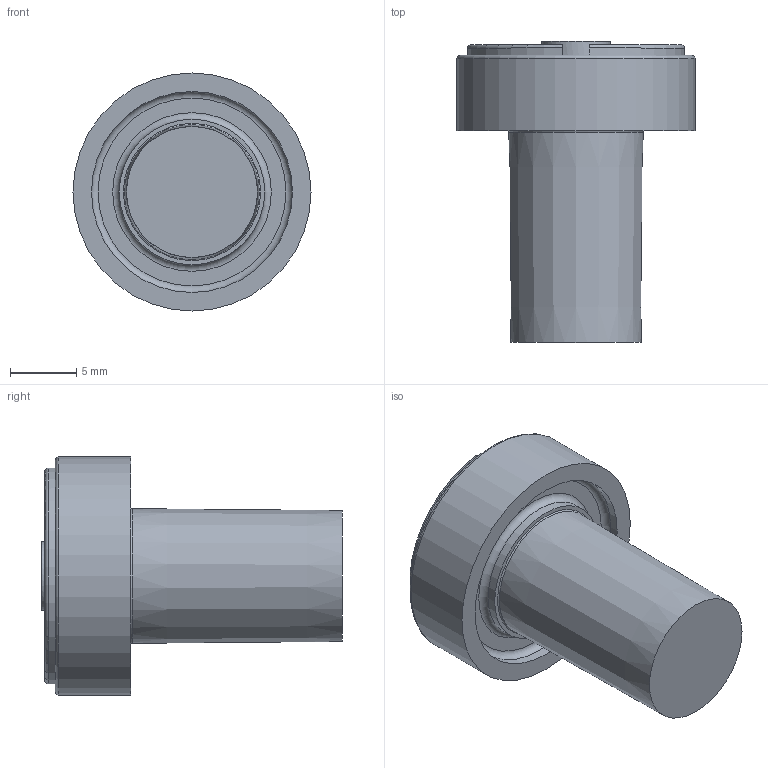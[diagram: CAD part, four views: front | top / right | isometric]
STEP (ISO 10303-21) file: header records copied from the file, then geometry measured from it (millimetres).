
FILE_DESCRIPTION(/* description */ (''),/* implementation_level */ '2;1');
FILE_NAME(/* name */ 'CDP02004_Ultraljudsgivare_130531.stp',/* time_stamp */ '2013-05-31T08:16:07+02:00',/* author */ (''),/* organization */ (''),/* preprocessor_version */ 'ST-DEVELOPER v14',/* originating_system */ 'SIEMENS PLM Software NX 8.0',/* authorisation */ '');
FILE_SCHEMA (('AUTOMOTIVE_DESIGN { 1 0 10303 214 3 1 1 1 }'));
Length unit declared in the file: millimetre
Products named in the file (1): ande1004DA54ncrd
Bounding box: 18 x 22.75 x 18 mm (x, y, z)
Volume: 2773 mm3; surface area: 1463.4 mm2
Topology: 1 solids, 1 shells, 25 faces, 53 edges, 34 vertices
Faces by surface type: plane 12, torus 6, cylinder 6, cone 1
Full cylindrical faces by diameter (mm): 5.2 x1, 11 x1, 15.2 x1, 18 x1
Entity records: 801 total; most frequent: CARTESIAN_POINT 162, DIRECTION 122, ORIENTED_EDGE 86, AXIS2_PLACEMENT_3D 57, EDGE_CURVE 43, EDGE_LOOP 38, VERTEX_POINT 33, FACE_BOUND 26
